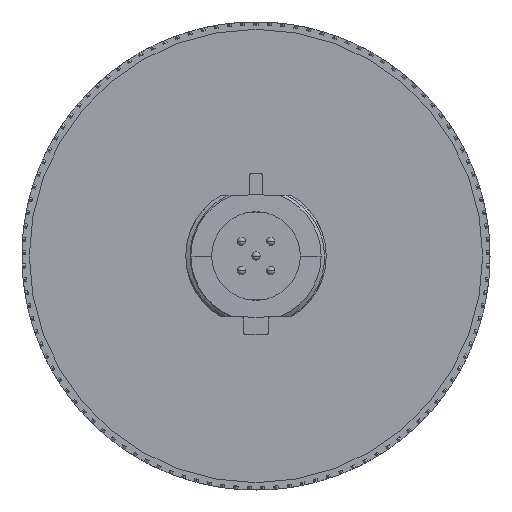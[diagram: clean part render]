
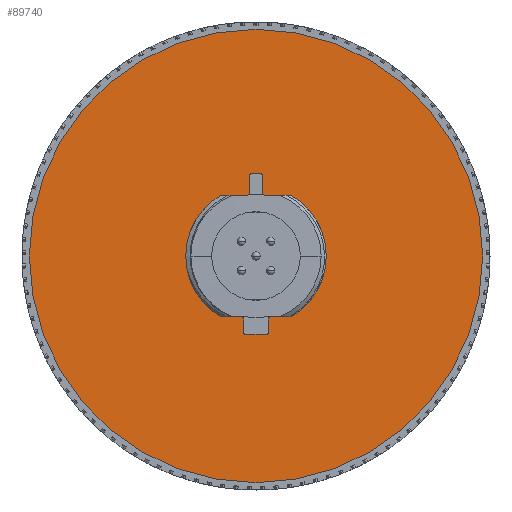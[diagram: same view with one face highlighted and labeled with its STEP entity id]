
A CAD part, front view. The second image highlights one B-rep face of the part: STEP entity #89740.
In plain terms, the highlighted planar face has unit normal (0, -1, 0).
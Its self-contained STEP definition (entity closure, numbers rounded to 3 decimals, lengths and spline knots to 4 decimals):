
#13614=CARTESIAN_POINT('',(0.,-0.364,0.));
#13615=DIRECTION('',(0.,1.,0.));
#13616=DIRECTION('',(1.,0.,0.));
#13617=AXIS2_PLACEMENT_3D('',#13614,#13615,#13616);
#13619=CARTESIAN_POINT('',(0.,-0.364,0.));
#13620=DIRECTION('',(0.,1.,0.));
#13621=DIRECTION('',(-1.,0.,0.));
#13622=AXIS2_PLACEMENT_3D('',#13619,#13620,#13621);
#13632=DIRECTION('',(-1.,0.,0.));
#13633=VECTOR('',#13632,0.0392);
#13634=CARTESIAN_POINT('',(0.0196,-0.364,0.393));
#13635=LINE('',#13634,#13633);
#13636=CARTESIAN_POINT('',(0.0196,-0.364,0.393));
#13637=CARTESIAN_POINT('',(0.0229,-0.364,0.393));
#13638=CARTESIAN_POINT('',(0.0271,-0.364,0.3904));
#13639=CARTESIAN_POINT('',(0.0296,-0.364,0.3863));
#13640=CARTESIAN_POINT('',(0.0296,-0.364,0.383));
#13646=DIRECTION('',(0.,0.,1.));
#13647=VECTOR('',#13646,0.0836);
#13648=CARTESIAN_POINT('',(0.0296,-0.364,0.2993));
#13649=LINE('',#13648,#13647);
#13654=CARTESIAN_POINT('',(0.0394,-0.364,0.2893));
#13655=CARTESIAN_POINT('',(0.0362,-0.364,0.2894));
#13656=CARTESIAN_POINT('',(0.0321,-0.364,0.2919));
#13657=CARTESIAN_POINT('',(0.0296,-0.364,0.296));
#13658=CARTESIAN_POINT('',(0.0296,-0.364,0.2993));
#13664=DIRECTION('',(1.,0.,-0.017));
#13665=VECTOR('',#13664,0.1294);
#13666=CARTESIAN_POINT('',(0.0394,-0.364,0.2893));
#13667=LINE('',#13666,#13665);
#13743=CARTESIAN_POINT('',(0.,-0.364,0.));
#13744=DIRECTION('',(0.,1.,0.));
#13745=DIRECTION('',(0.507,0.,0.862));
#13746=AXIS2_PLACEMENT_3D('',#13743,#13744,#13745);
#13752=DIRECTION('',(-1.,0.,-0.017));
#13753=VECTOR('',#13752,0.0994);
#13754=CARTESIAN_POINT('',(0.1688,-0.364,-0.2871));
#13755=LINE('',#13754,#13753);
#13827=CARTESIAN_POINT('',(0.0694,-0.364,-0.2888));
#13828=CARTESIAN_POINT('',(0.0662,-0.364,-0.2888));
#13829=CARTESIAN_POINT('',(0.0621,-0.364,-0.2914));
#13830=CARTESIAN_POINT('',(0.0596,-0.364,-0.2955));
#13831=CARTESIAN_POINT('',(0.0596,-0.364,-0.2988));
#13841=DIRECTION('',(0.,0.,1.));
#13842=VECTOR('',#13841,0.0642);
#13843=CARTESIAN_POINT('',(0.0596,-0.364,-0.363));
#13844=LINE('',#13843,#13842);
#13845=CARTESIAN_POINT('',(0.0596,-0.364,-0.363));
#13846=CARTESIAN_POINT('',(0.0596,-0.364,-0.3663));
#13847=CARTESIAN_POINT('',(0.0571,-0.364,-0.3704));
#13848=CARTESIAN_POINT('',(0.0529,-0.364,-0.373));
#13849=CARTESIAN_POINT('',(0.0496,-0.364,-0.373));
#13855=DIRECTION('',(1.,0.,0.));
#13856=VECTOR('',#13855,0.0992);
#13857=CARTESIAN_POINT('',(-0.0496,-0.364,-0.373));
#13858=LINE('',#13857,#13856);
#13863=CARTESIAN_POINT('',(-0.0496,-0.364,-0.373));
#13864=CARTESIAN_POINT('',(-0.0529,-0.364,-0.373));
#13865=CARTESIAN_POINT('',(-0.0571,-0.364,-0.3704));
#13866=CARTESIAN_POINT('',(-0.0596,-0.364,-0.3663));
#13867=CARTESIAN_POINT('',(-0.0596,-0.364,-0.363));
#13873=DIRECTION('',(0.,0.,-1.));
#13874=VECTOR('',#13873,0.0642);
#13875=CARTESIAN_POINT('',(-0.0596,-0.364,-0.2988));
#13876=LINE('',#13875,#13874);
#13881=CARTESIAN_POINT('',(-0.0694,-0.364,-0.2888));
#13882=CARTESIAN_POINT('',(-0.0662,-0.364,-0.2888));
#13883=CARTESIAN_POINT('',(-0.0621,-0.364,-0.2914));
#13884=CARTESIAN_POINT('',(-0.0596,-0.364,-0.2955));
#13885=CARTESIAN_POINT('',(-0.0596,-0.364,-0.2988));
#13969=DIRECTION('',(-1.,0.,0.017));
#13970=VECTOR('',#13969,0.0994);
#13971=CARTESIAN_POINT('',(-0.0694,-0.364,-0.2888));
#13972=LINE('',#13971,#13970);
#13977=CARTESIAN_POINT('',(0.,-0.364,0.));
#13978=DIRECTION('',(0.,1.,0.));
#13979=DIRECTION('',(-0.507,0.,-0.862));
#13980=AXIS2_PLACEMENT_3D('',#13977,#13978,#13979);
#13986=DIRECTION('',(1.,0.,0.017));
#13987=VECTOR('',#13986,0.1294);
#13988=CARTESIAN_POINT('',(-0.1688,-0.364,0.2871));
#13989=LINE('',#13988,#13987);
#14061=CARTESIAN_POINT('',(-0.0394,-0.364,0.2893));
#14062=CARTESIAN_POINT('',(-0.0362,-0.364,0.2894));
#14063=CARTESIAN_POINT('',(-0.0321,-0.364,0.2919));
#14064=CARTESIAN_POINT('',(-0.0296,-0.364,0.296));
#14065=CARTESIAN_POINT('',(-0.0296,-0.364,0.2993));
#14075=DIRECTION('',(0.,0.,-1.));
#14076=VECTOR('',#14075,0.0836);
#14077=CARTESIAN_POINT('',(-0.0296,-0.364,0.383));
#14078=LINE('',#14077,#14076);
#14079=CARTESIAN_POINT('',(-0.0296,-0.364,0.383));
#14080=CARTESIAN_POINT('',(-0.0296,-0.364,0.3863));
#14081=CARTESIAN_POINT('',(-0.0271,-0.364,0.3904));
#14082=CARTESIAN_POINT('',(-0.0229,-0.364,0.393));
#14083=CARTESIAN_POINT('',(-0.0196,-0.364,0.393));
#72193=CARTESIAN_POINT('',(1.075,-0.364,0.));
#72194=CARTESIAN_POINT('',(-1.075,-0.364,0.));
#72195=VERTEX_POINT('',#72193);
#72196=VERTEX_POINT('',#72194);
#82770=CARTESIAN_POINT('',(0.0196,-0.364,0.393));
#82771=VERTEX_POINT('',#82770);
#82772=CARTESIAN_POINT('',(-0.0196,-0.364,0.393));
#82773=VERTEX_POINT('',#82772);
#82774=CARTESIAN_POINT('',(0.0296,-0.364,0.383));
#82775=VERTEX_POINT('',#82774);
#82776=CARTESIAN_POINT('',(0.0296,-0.364,0.2993));
#82777=VERTEX_POINT('',#82776);
#82778=CARTESIAN_POINT('',(0.0596,-0.364,-0.363));
#82779=VERTEX_POINT('',#82778);
#82780=CARTESIAN_POINT('',(0.0596,-0.364,-0.2988));
#82781=VERTEX_POINT('',#82780);
#82782=CARTESIAN_POINT('',(0.0496,-0.364,-0.373));
#82783=VERTEX_POINT('',#82782);
#82784=CARTESIAN_POINT('',(-0.0496,-0.364,-0.373));
#82785=VERTEX_POINT('',#82784);
#82786=CARTESIAN_POINT('',(-0.0596,-0.364,-0.363));
#82787=VERTEX_POINT('',#82786);
#82788=CARTESIAN_POINT('',(-0.0596,-0.364,-0.2988));
#82789=VERTEX_POINT('',#82788);
#82790=CARTESIAN_POINT('',(-0.0296,-0.364,0.383));
#82791=VERTEX_POINT('',#82790);
#82792=CARTESIAN_POINT('',(-0.0296,-0.364,0.2993));
#82793=VERTEX_POINT('',#82792);
#82794=CARTESIAN_POINT('',(0.0394,-0.364,0.2893));
#82795=VERTEX_POINT('',#82794);
#82796=CARTESIAN_POINT('',(0.1688,-0.364,0.2871));
#82797=VERTEX_POINT('',#82796);
#82798=CARTESIAN_POINT('',(-0.1688,-0.364,-0.2871));
#82799=VERTEX_POINT('',#82798);
#82800=CARTESIAN_POINT('',(-0.1688,-0.364,0.2871));
#82801=VERTEX_POINT('',#82800);
#82802=CARTESIAN_POINT('',(0.1688,-0.364,-0.2871));
#82803=VERTEX_POINT('',#82802);
#82804=CARTESIAN_POINT('',(-0.0694,-0.364,-0.2888));
#82805=VERTEX_POINT('',#82804);
#82806=CARTESIAN_POINT('',(0.0694,-0.364,-0.2888));
#82807=VERTEX_POINT('',#82806);
#82808=CARTESIAN_POINT('',(-0.0394,-0.364,0.2893));
#82809=VERTEX_POINT('',#82808);
#89689=CARTESIAN_POINT('',(0.,-0.364,0.));
#89690=DIRECTION('',(0.,1.,0.));
#89691=DIRECTION('',(1.,0.,0.));
#89692=AXIS2_PLACEMENT_3D('',#89689,#89690,#89691);
#89693=PLANE('',#89692);
#89694=ORIENTED_EDGE('',*,*,#89683,.T.);
#89695=ORIENTED_EDGE('',*,*,#89669,.T.);
#89696=EDGE_LOOP('',(#89694,#89695));
#89697=FACE_OUTER_BOUND('',#89696,.F.);
#89699=ORIENTED_EDGE('',*,*,#89698,.T.);
#89701=ORIENTED_EDGE('',*,*,#89700,.F.);
#89703=ORIENTED_EDGE('',*,*,#89702,.T.);
#89705=ORIENTED_EDGE('',*,*,#89704,.F.);
#89707=ORIENTED_EDGE('',*,*,#89706,.F.);
#89709=ORIENTED_EDGE('',*,*,#89708,.F.);
#89711=ORIENTED_EDGE('',*,*,#89710,.F.);
#89713=ORIENTED_EDGE('',*,*,#89712,.T.);
#89715=ORIENTED_EDGE('',*,*,#89714,.T.);
#89717=ORIENTED_EDGE('',*,*,#89716,.F.);
#89719=ORIENTED_EDGE('',*,*,#89718,.T.);
#89721=ORIENTED_EDGE('',*,*,#89720,.F.);
#89723=ORIENTED_EDGE('',*,*,#89722,.T.);
#89725=ORIENTED_EDGE('',*,*,#89724,.F.);
#89727=ORIENTED_EDGE('',*,*,#89726,.F.);
#89729=ORIENTED_EDGE('',*,*,#89728,.F.);
#89731=ORIENTED_EDGE('',*,*,#89730,.F.);
#89733=ORIENTED_EDGE('',*,*,#89732,.T.);
#89735=ORIENTED_EDGE('',*,*,#89734,.T.);
#89737=ORIENTED_EDGE('',*,*,#89736,.F.);
#89738=EDGE_LOOP('',(#89699,#89701,#89703,#89705,#89707,#89709,#89711,#89713,
#89715,#89717,#89719,#89721,#89723,#89725,#89727,#89729,#89731,#89733,#89735,
#89737));
#89739=FACE_BOUND('',#89738,.F.);
#89740=ADVANCED_FACE('',(#89697,#89739),#89693,.F.);
#13618=CIRCLE('',#13617,1.075);
#13623=CIRCLE('',#13622,1.075);
#13641=B_SPLINE_CURVE_WITH_KNOTS('',3,(#13636,#13637,#13638,#13639,#13640),
.UNSPECIFIED.,.F.,.F.,(4,1,4),(0.,0.5,1.),.UNSPECIFIED.);
#13659=B_SPLINE_CURVE_WITH_KNOTS('',3,(#13654,#13655,#13656,#13657,#13658),
.UNSPECIFIED.,.F.,.F.,(4,1,4),(0.,0.5,1.),.UNSPECIFIED.);
#13747=CIRCLE('',#13746,0.333);
#13832=B_SPLINE_CURVE_WITH_KNOTS('',3,(#13827,#13828,#13829,#13830,#13831),
.UNSPECIFIED.,.F.,.F.,(4,1,4),(0.,0.5,1.),.UNSPECIFIED.);
#13850=B_SPLINE_CURVE_WITH_KNOTS('',3,(#13845,#13846,#13847,#13848,#13849),
.UNSPECIFIED.,.F.,.F.,(4,1,4),(0.,0.5,1.),.UNSPECIFIED.);
#13868=B_SPLINE_CURVE_WITH_KNOTS('',3,(#13863,#13864,#13865,#13866,#13867),
.UNSPECIFIED.,.F.,.F.,(4,1,4),(0.,0.5,1.),.UNSPECIFIED.);
#13886=B_SPLINE_CURVE_WITH_KNOTS('',3,(#13881,#13882,#13883,#13884,#13885),
.UNSPECIFIED.,.F.,.F.,(4,1,4),(0.,0.5,1.),.UNSPECIFIED.);
#13981=CIRCLE('',#13980,0.333);
#14066=B_SPLINE_CURVE_WITH_KNOTS('',3,(#14061,#14062,#14063,#14064,#14065),
.UNSPECIFIED.,.F.,.F.,(4,1,4),(0.,0.5,1.),.UNSPECIFIED.);
#14084=B_SPLINE_CURVE_WITH_KNOTS('',3,(#14079,#14080,#14081,#14082,#14083),
.UNSPECIFIED.,.F.,.F.,(4,1,4),(0.,0.5,1.),.UNSPECIFIED.);
#89669=EDGE_CURVE('',#72196,#72195,#13623,.T.);
#89683=EDGE_CURVE('',#72195,#72196,#13618,.T.);
#89698=EDGE_CURVE('',#82771,#82773,#13635,.T.);
#89700=EDGE_CURVE('',#82791,#82773,#14084,.T.);
#89702=EDGE_CURVE('',#82791,#82793,#14078,.T.);
#89704=EDGE_CURVE('',#82809,#82793,#14066,.T.);
#89706=EDGE_CURVE('',#82801,#82809,#13989,.T.);
#89708=EDGE_CURVE('',#82799,#82801,#13981,.T.);
#89710=EDGE_CURVE('',#82805,#82799,#13972,.T.);
#89712=EDGE_CURVE('',#82805,#82789,#13886,.T.);
#89714=EDGE_CURVE('',#82789,#82787,#13876,.T.);
#89716=EDGE_CURVE('',#82785,#82787,#13868,.T.);
#89718=EDGE_CURVE('',#82785,#82783,#13858,.T.);
#89720=EDGE_CURVE('',#82779,#82783,#13850,.T.);
#89722=EDGE_CURVE('',#82779,#82781,#13844,.T.);
#89724=EDGE_CURVE('',#82807,#82781,#13832,.T.);
#89726=EDGE_CURVE('',#82803,#82807,#13755,.T.);
#89728=EDGE_CURVE('',#82797,#82803,#13747,.T.);
#89730=EDGE_CURVE('',#82795,#82797,#13667,.T.);
#89732=EDGE_CURVE('',#82795,#82777,#13659,.T.);
#89734=EDGE_CURVE('',#82777,#82775,#13649,.T.);
#89736=EDGE_CURVE('',#82771,#82775,#13641,.T.);
